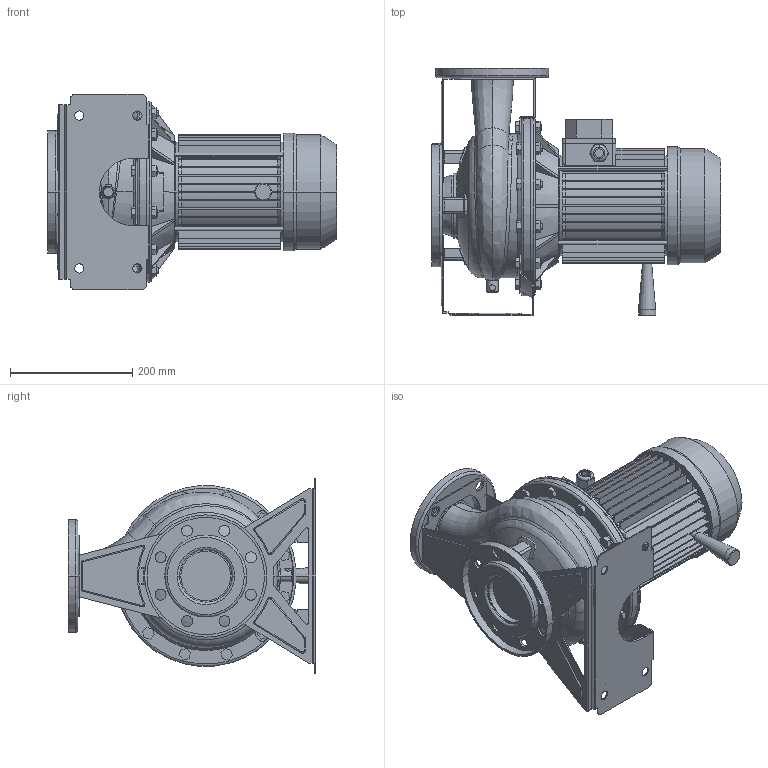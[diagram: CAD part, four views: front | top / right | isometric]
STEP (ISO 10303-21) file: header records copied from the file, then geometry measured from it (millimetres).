
FILE_DESCRIPTION((''),'2;1');
FILE_NAME('3M4_65-200_3_ASM','2009-11-17T',('Utente'),('"Ebara Pumps Europe +39.444.706811"'),'PRO/ENGINEER BY PARAMETRIC TECHNOLOGY CORPORATION, 2008400','PRO/ENGINEER BY PARAMETRIC TECHNOLOGY CORPORATION, 2008400','');
FILE_SCHEMA(('AUTOMOTIVE_DESIGN { 1 0 10303 214 1 1 1 1 }'));
Length unit declared in the file: millimetre
Products named in the file (11): CORPO_65-200; ASP_65-200; FLANGIA_DIN_80_8_FORI; MAND_65-200; FLANGIA_DIN_65; BASE_3M_65-200; CORPO_SALDATO_65-200_ASM; SUPPORTO_3M_230_100; MEC_100_4; 72405; 3M4_65-200_3_ASM
Assembly tree (10 placements, depth 3):
  3M4_65-200_3_ASM
    CORPO_SALDATO_65-200_ASM
      CORPO_65-200
      ASP_65-200
      FLANGIA_DIN_80_8_FORI
      MAND_65-200
      FLANGIA_DIN_65
      BASE_3M_65-200
    SUPPORTO_3M_230_100
    MEC_100_4
    72405
Bounding box: 473.5 x 405 x 320 mm (x, y, z)
Volume: 11693014.2 mm3; surface area: 1392232.3 mm2
Topology: 12 solids, 12 shells, 1111 faces, 2817 edges, 1798 vertices
Faces by surface type: plane 605, cylinder 313, cone 94, torus 60, bspline 33, sphere 6
Entity records: 37489 total; most frequent: CARTESIAN_POINT 9880, DIRECTION 5758, ORIENTED_EDGE 5634, EDGE_CURVE 2817, AXIS2_PLACEMENT_3D 2077, VERTEX_POINT 1798, VECTOR 1604, LINE 1604
